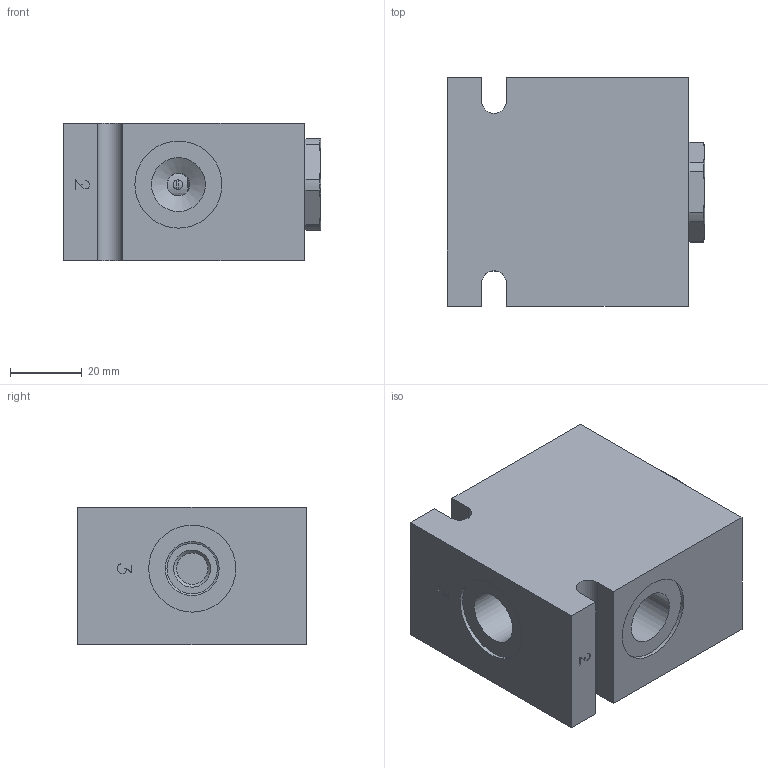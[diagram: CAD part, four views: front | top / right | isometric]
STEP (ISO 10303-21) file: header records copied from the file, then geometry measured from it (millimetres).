
FILE_DESCRIPTION( ( 'Unknown' ), '1' );
FILE_NAME( 'G:/Graphic Design/Graphic Design 2/Data Sheets/PRESSURE CONTROLS/2_STEP/Pressure Compensated Regulator Valves/D-DFPCR00-B3.stp', 'Unknown', ( 'Unknown' ), ( 'Unknown' ), 'PSStep 16.0.42', 'Unknown', ' ' );
FILE_SCHEMA( ( 'AUTOMOTIVE_DESIGN { 1 0 10303 214 1 1 1 1 }' ) );
Length unit declared in the file: millimetre
Products named in the file (9): DFPCR00; DFPCR00-3D Full1; DFPCR00-3D Full2; DFPCR00-3D Full3; DFPCR00-3D Full4; DFPCR00-3D Full5; DFPCR00-3D Full6; Assem1; B-DDFB3
Assembly tree (8 placements, depth 3):
  Assem1
    B-DDFB3
    DFPCR00
      DFPCR00-3D Full1
      DFPCR00-3D Full2
      DFPCR00-3D Full3
      DFPCR00-3D Full4
      DFPCR00-3D Full5
      DFPCR00-3D Full6
Bounding box: 71.56 x 63.5 x 38.1 mm (x, y, z)
Surface area: 31856 mm2 (no closed solid volume)
Topology: 0 solids, 233 shells, 233 faces, 982 edges, 889 vertices
Faces by surface type: plane 121, cylinder 66, cone 39, torus 7
Full cylindrical faces by diameter (mm): 0.2 x3, 0.508 x2, 2.667 x8, 5.131 x1, 6.3 x1, 7.684 x1, 7.709 x3, 8.725 x4, 8.733 x1, 12.992 x1, 13.043 x1, 14 x2, 14.275 x1, 14.592 x1, 14.643 x1, 15 x6, 15.735 x1, 15.761 x2, 15.875 x2, 15.926 x1, 17.323 x1, 17.335 x1, 17.374 x2, 17.526 x1, 17.527 x1, 19.622 x1, 20.262 x2, 24.2 x3, 30.175 x1
Entity records: 12738 total; most frequent: CARTESIAN_POINT 4140, DIRECTION 1252, VERTEX_POINT 859, ORIENTED_EDGE 856, EDGE_CURVE 856, AXIS2_PLACEMENT_3D 515, FACE_BOUND 375, EDGE_LOOP 372
